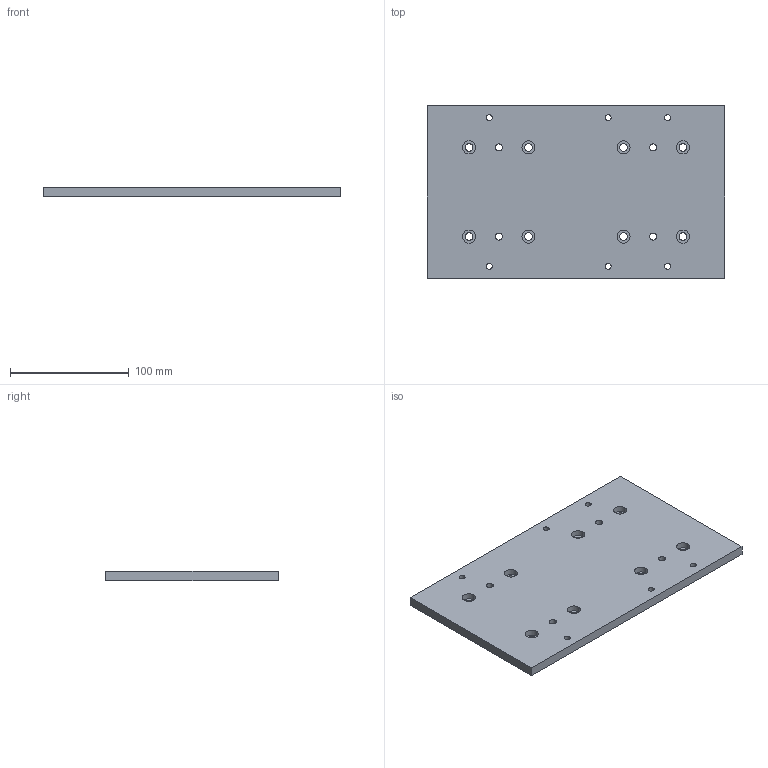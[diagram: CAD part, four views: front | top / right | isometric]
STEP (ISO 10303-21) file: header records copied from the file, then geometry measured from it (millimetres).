
FILE_DESCRIPTION (( 'STEP AP203' ), '1' );
FILE_NAME ('_-_PS9.step', '2005-09-07T12:56:59', ( ' ' ), ( ' ' ), 'SwSTEP 2.0', 'SolidWorks 2005187', '' );
FILE_SCHEMA (( 'CONFIG_CONTROL_DESIGN' ));
Length unit declared in the file: millimetre
Products named in the file (2): _-_PS9; TE1709 Schlittenplatte PS9_Standard
Assembly tree (1 placements, depth 2):
  _-_PS9
    TE1709 Schlittenplatte PS9_Standard
Bounding box: 250 x 145 x 8 mm (x, y, z)
Volume: 283530.3 mm3; surface area: 81047.9 mm2
Topology: 1 solids, 1 shells, 66 faces, 168 edges, 112 vertices
Faces by surface type: cylinder 52, plane 14
Entity records: 2324 total; most frequent: DIRECTION 412, CARTESIAN_POINT 350, ORIENTED_EDGE 336, AXIS2_PLACEMENT_3D 174, EDGE_CURVE 168, VERTEX_POINT 112, EDGE_LOOP 110, CIRCLE 104
